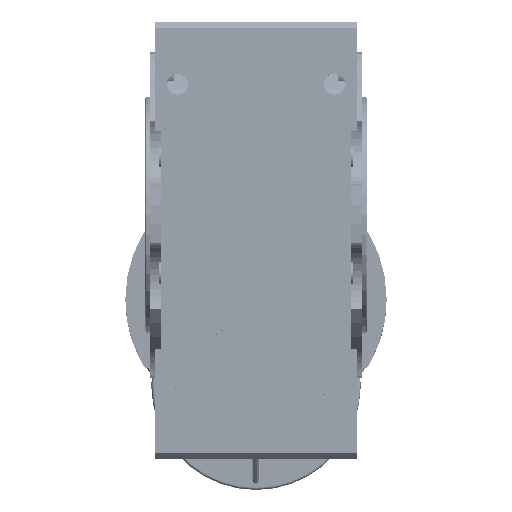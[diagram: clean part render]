
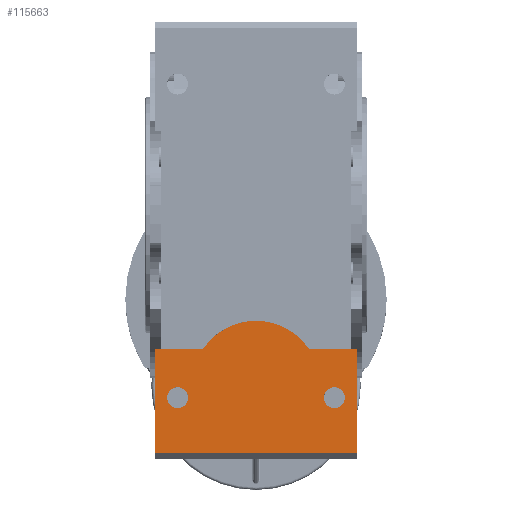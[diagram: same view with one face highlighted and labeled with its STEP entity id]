
A CAD part, top view. The second image highlights one B-rep face of the part: STEP entity #115663.
In plain terms, the highlighted planar face has unit normal (0, 0, 1) as drawn and (0, 0, -1) by its records, which use the part's own axes.
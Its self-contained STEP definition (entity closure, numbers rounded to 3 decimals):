
#41389 = VERTEX_POINT ( 'NONE', #87097 ) ;
#41500 = VERTEX_POINT ( 'NONE', #87177 ) ;
#41502 = VERTEX_POINT ( 'NONE', #87178 ) ;
#41648 = VERTEX_POINT ( 'NONE', #87278 ) ;
#52428 = ORIENTED_EDGE ( 'NONE', *, *, #56742, .F. ) ;
#52434 = ORIENTED_EDGE ( 'NONE', *, *, #56746, .T. ) ;
#52576 = ORIENTED_EDGE ( 'NONE', *, *, #55222, .T. ) ;
#52663 = ORIENTED_EDGE ( 'NONE', *, *, #56740, .T. ) ;
#52679 = ORIENTED_EDGE ( 'NONE', *, *, #56738, .F. ) ;
#52902 = ORIENTED_EDGE ( 'NONE', *, *, #56736, .T. ) ;
#52931 = ORIENTED_EDGE ( 'NONE', *, *, #56631, .T. ) ;
#55222 = EDGE_CURVE ( 'NONE', #99573, #99571, #125986, .T. ) ;
#55276 = EDGE_CURVE ( 'NONE', #99642, #99640, #126013, .T. ) ;
#55650 = EDGE_CURVE ( 'NONE', #99911, #99914, #126288, .T. ) ;
#56631 = EDGE_CURVE ( 'NONE', #41648, #41389, #175634, .T. ) ;
#56736 = EDGE_CURVE ( 'NONE', #99571, #99573, #175796, .T. ) ;
#56738 = EDGE_CURVE ( 'NONE', #41502, #41389, #175800, .T. ) ;
#56740 = EDGE_CURVE ( 'NONE', #41502, #99911, #175803, .T. ) ;
#56742 = EDGE_CURVE ( 'NONE', #41500, #99914, #175805, .T. ) ;
#56744 = EDGE_CURVE ( 'NONE', #41648, #41500, #175808, .T. ) ;
#56746 = EDGE_CURVE ( 'NONE', #99640, #99642, #175811, .T. ) ;
#87097 = CARTESIAN_POINT ( 'NONE',  ( -40.74, 103., -147.5 ) ) ;
#87177 = CARTESIAN_POINT ( 'NONE',  ( 77.5, 103., -147.5 ) ) ;
#87178 = CARTESIAN_POINT ( 'NONE',  ( -77.5, 103., -147.5 ) ) ;
#87278 = CARTESIAN_POINT ( 'NONE',  ( 40.74, 103., -147.5 ) ) ;
#99571 = VERTEX_POINT ( 'NONE', #130761 ) ;
#99573 = VERTEX_POINT ( 'NONE', #130762 ) ;
#99640 = VERTEX_POINT ( 'NONE', #130820 ) ;
#99642 = VERTEX_POINT ( 'NONE', #130822 ) ;
#99911 = VERTEX_POINT ( 'NONE', #131445 ) ;
#99914 = VERTEX_POINT ( 'NONE', #131449 ) ;
#100126 = EDGE_LOOP ( 'NONE', ( #52931, #52679, #52663, #163642, #52428, #163597 ) ) ;
#100219 = EDGE_LOOP ( 'NONE', ( #52576, #52902 ) ) ;
#100281 = EDGE_LOOP ( 'NONE', ( #163593, #52434 ) ) ;
#115663 = ADVANCED_FACE ( 'NONE', ( #165613, #165659, #165638 ), #132544, .T. ) ;
#117823 = AXIS2_PLACEMENT_3D ( 'NONE', #127387, #127389, #127391 ) ;
#117864 = AXIS2_PLACEMENT_3D ( 'NONE', #127481, #127483, #127485 ) ;
#118186 = AXIS2_PLACEMENT_3D ( 'NONE', #130478, #130480, #130482 ) ;
#118223 = AXIS2_PLACEMENT_3D ( 'NONE', #130737, #130739, #130741 ) ;
#118230 = AXIS2_PLACEMENT_3D ( 'NONE', #130765, #130767, #130769 ) ;
#125986 = CIRCLE ( 'NONE', #117823, 8. ) ;
#126013 = CIRCLE ( 'NONE', #117864, 8. ) ;
#126288 = LINE ( 'NONE', #128489, #126293 ) ;
#126293 = VECTOR ( 'NONE', #128512, 1000. ) ;
#127387 = CARTESIAN_POINT ( 'NONE',  ( 60., 140., -147.5 ) ) ;
#127389 = DIRECTION ( 'NONE',  ( 0., 0., 1. ) ) ;
#127391 = DIRECTION ( 'NONE',  ( -1., 0., 0. ) ) ;
#127481 = CARTESIAN_POINT ( 'NONE',  ( -60., 140., -147.5 ) ) ;
#127483 = DIRECTION ( 'NONE',  ( 0., 0., 1. ) ) ;
#127485 = DIRECTION ( 'NONE',  ( -1., 0., 0. ) ) ;
#128489 = CARTESIAN_POINT ( 'NONE',  ( 0., 182.12, -147.5 ) ) ;
#128512 = DIRECTION ( 'NONE',  ( 1., 0., 0. ) ) ;
#130478 = CARTESIAN_POINT ( 'NONE',  ( 0., 130., -147.5 ) ) ;
#130480 = DIRECTION ( 'NONE',  ( 0., 0., -1. ) ) ;
#130482 = DIRECTION ( 'NONE',  ( 1., 0., 0. ) ) ;
#130710 = DIRECTION ( 'NONE',  ( 1., 0., 0. ) ) ;
#130720 = CARTESIAN_POINT ( 'NONE',  ( -72.85, 103., -147.5 ) ) ;
#130737 = CARTESIAN_POINT ( 'NONE',  ( 60., 140., -147.5 ) ) ;
#130739 = DIRECTION ( 'NONE',  ( 0., 0., 1. ) ) ;
#130741 = DIRECTION ( 'NONE',  ( -1., 0., 0. ) ) ;
#130744 = CARTESIAN_POINT ( 'NONE',  ( -77.5, 19.5, -147.5 ) ) ;
#130747 = DIRECTION ( 'NONE',  ( 0., 1., 0. ) ) ;
#130749 = CARTESIAN_POINT ( 'NONE',  ( 77.5, 19.5, -147.5 ) ) ;
#130752 = DIRECTION ( 'NONE',  ( 0., 1., 0. ) ) ;
#130754 = CARTESIAN_POINT ( 'NONE',  ( -72.85, 103., -147.5 ) ) ;
#130757 = DIRECTION ( 'NONE',  ( 1., 0., 0. ) ) ;
#130761 = CARTESIAN_POINT ( 'NONE',  ( 68., 140., -147.5 ) ) ;
#130762 = CARTESIAN_POINT ( 'NONE',  ( 52., 140., -147.5 ) ) ;
#130765 = CARTESIAN_POINT ( 'NONE',  ( -60., 140., -147.5 ) ) ;
#130767 = DIRECTION ( 'NONE',  ( 0., 0., 1. ) ) ;
#130769 = DIRECTION ( 'NONE',  ( -1., 0., 0. ) ) ;
#130820 = CARTESIAN_POINT ( 'NONE',  ( -52., 140., -147.5 ) ) ;
#130822 = CARTESIAN_POINT ( 'NONE',  ( -68., 140., -147.5 ) ) ;
#131445 = CARTESIAN_POINT ( 'NONE',  ( -77.5, 182.12, -147.5 ) ) ;
#131449 = CARTESIAN_POINT ( 'NONE',  ( 77.5, 182.12, -147.5 ) ) ;
#132522 = DIRECTION ( 'NONE',  ( 0., 0., -1. ) ) ;
#132539 = CARTESIAN_POINT ( 'NONE',  ( 0., 130., -147.5 ) ) ;
#132544 = PLANE ( 'NONE',  #152052 ) ;
#132547 = DIRECTION ( 'NONE',  ( 0., 1., 0. ) ) ;
#152052 = AXIS2_PLACEMENT_3D ( 'NONE', #132539, #132522, #132547 ) ;
#163593 = ORIENTED_EDGE ( 'NONE', *, *, #55276, .T. ) ;
#163597 = ORIENTED_EDGE ( 'NONE', *, *, #56744, .F. ) ;
#163642 = ORIENTED_EDGE ( 'NONE', *, *, #55650, .T. ) ;
#165613 = FACE_BOUND ( 'NONE', #100219, .T. ) ;
#165638 = FACE_BOUND ( 'NONE', #100281, .T. ) ;
#165659 = FACE_OUTER_BOUND ( 'NONE', #100126, .T. ) ;
#175634 = CIRCLE ( 'NONE', #118186, 48.875 ) ;
#175796 = CIRCLE ( 'NONE', #118223, 8. ) ;
#175800 = LINE ( 'NONE', #130720, #175804 ) ;
#175803 = LINE ( 'NONE', #130744, #175807 ) ;
#175804 = VECTOR ( 'NONE', #130710, 1000. ) ;
#175805 = LINE ( 'NONE', #130749, #175809 ) ;
#175807 = VECTOR ( 'NONE', #130747, 1000. ) ;
#175808 = LINE ( 'NONE', #130754, #175812 ) ;
#175809 = VECTOR ( 'NONE', #130752, 1000. ) ;
#175811 = CIRCLE ( 'NONE', #118230, 8. ) ;
#175812 = VECTOR ( 'NONE', #130757, 1000. ) ;
